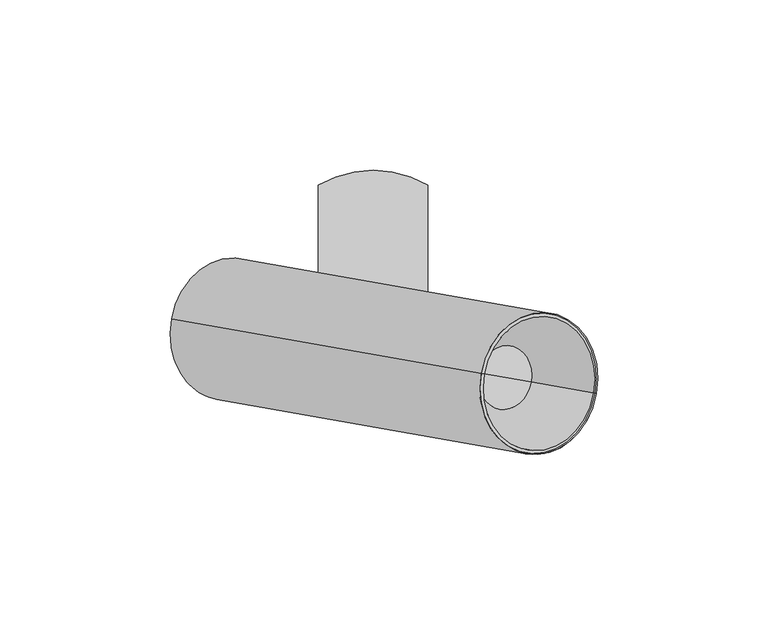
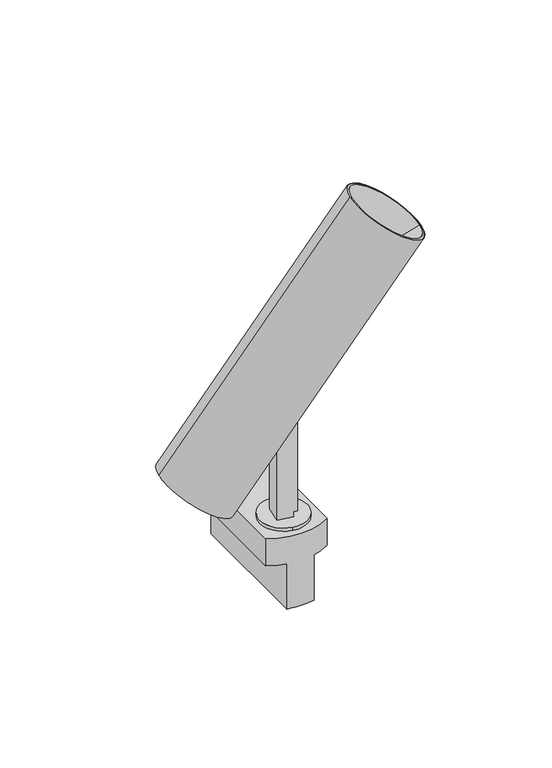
"""IFC4 building model written with IfcOpenShell, lengths in millimetres: light fixture geometry, PIPES T XS : 490lm 7,8W 930 38°."""

from ifc_helpers import new_model, si_unit, point, frame, frame_2d, origin, origin_2d, place, context, project, spatial, polyline, circle_curve, trimmed, segment, composite_curve, outline, extrude, source, transform, mapped, element, save
from ifc_brep_helpers import plane_surface, cylinder_surface, revolved_surface, advanced_brep


def light_fixture_79c06d4e(model_context):
    return source(origin(), model_context, "Body", "SolidModel", [
        extrude(outline(composite_curve([segment(polyline([(39.7303383, 0.0), (39.7303383, -8.0000001), (36.7303383, -8.0000001), (36.7303383, -10.0000001), (-21.31827, -10.0000001), (-21.31827, -2.0000001)]), True, "CONTINUOUS"), segment(trimmed(circle_curve(frame_2d((-15.691322, -2.0000001)), 5.626948), [point((-21.31827, -2.0000001))], [point((-15.691322, 3.626948))], False, "CARTESIAN"), True, "CONTINUOUS"), segment(polyline([(-15.691322, 3.626948), (-9.8735653, 3.626948)]), True, "CONTINUOUS"), segment(trimmed(circle_curve(frame_2d((-17.7182036, -2.2388679)), 9.7952104), [point((-9.8735653, 3.626948))], [point((-8.1822916, 0.0))], False, "CARTESIAN"), True, "CONTINUOUS"), segment(polyline([(-8.1822916, 0.0), (39.7303383, 0.0)]), True, "CONTINUOUS")], self_intersect=False)), frame((-5.7922797, -4.0557979, 56.5303383), z_axis=(0.1736481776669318, 0.9848077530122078, 0.0), x_axis=(0.0, 0.0, -1.0)), (0.0, 0.0, 1.0), 10.0),
        extrude(outline(composite_curve([segment(trimmed(circle_curve(origin_2d(), 12.5), [point((2.1706022, 12.3100969))], [point((-2.1706022, -12.3100969))], False, "CARTESIAN"), True, "CONTINUOUS"), segment(trimmed(circle_curve(origin_2d(), 12.5), [point((-2.1706022, -12.3100969))], [point((2.1706022, 12.3100969))], False, "CARTESIAN"), True, "CONTINUOUS")], self_intersect=False)), frame((0.0, 0.0, 15.0), z_axis=(0.0, 0.0, 1.0), x_axis=(1.0, 0.0, 0.0)), (0.0, 0.0, 1.0), 1.8),
        advanced_brep(
        [(-7.1153658, -15.2862846, -25.0), (-7.1153658, 53.3498174, -25.0), (7.1153658, 53.3498174, -25.0), (7.1153658, -15.2862846, -25.0), (-16.1153658, 49.7317664, 15.0), (-16.1153658, -11.6682336, 15.0), (16.1153658, -11.6682336, 15.0), (16.1153658, 49.7317664, 15.0), (-16.1153658, 49.7317664, 0.0), (-16.1153658, -11.6682336, 0.0), (-7.1153658, -15.2862846, 0.0), (7.1153658, -15.2862846, 0.0), (16.1153658, -11.6682336, 0.0), (16.1153658, 49.7317664, 0.0), (7.1153658, 53.3498174, 0.0), (-7.1153658, 53.3498174, 0.0)],
        [
            (0, 1),
            (1, 2, circle_curve(frame((0.0, 22.6472542, -25.0), z_axis=(0.0, 0.0, -1.0), x_axis=(1.0, 0.0, 0.0)), 31.5162786)),
            (2, 3),
            (3, 0, circle_curve(frame((0.0, 15.4162786, -25.0), z_axis=(0.0, 0.0, -1.0), x_axis=(1.0, 0.0, 0.0)), 31.5162786)),
            (4, 5),
            (5, 6, circle_curve(frame((0.0, 15.4162786, 15.0), z_axis=(0.0, 0.0, 1.0), x_axis=(1.0, 0.0, 0.0)), 31.5162786)),
            (6, 7),
            (7, 4, circle_curve(frame((0.0, 22.6472542, 15.0), z_axis=(0.0, 0.0, 1.0), x_axis=(1.0, 0.0, 0.0)), 31.5162786)),
            (4, 8),
            (8, 9),
            (9, 5),
            (9, 10, circle_curve(frame((0.0, 15.4162786, 0.0), z_axis=(0.0, 0.0, 1.0), x_axis=(1.0, 0.0, 0.0)), 31.5162786)),
            (10, 0),
            (3, 11),
            (11, 12, circle_curve(frame((0.0, 15.4162786, 0.0), z_axis=(0.0, 0.0, 1.0), x_axis=(1.0, 0.0, 0.0)), 31.5162786)),
            (12, 6),
            (12, 13),
            (13, 7),
            (13, 14, circle_curve(frame((0.0, 22.6472542, 0.0), z_axis=(0.0, 0.0, 1.0), x_axis=(1.0, 0.0, 0.0)), 31.5162786)),
            (14, 2),
            (1, 15),
            (15, 8, circle_curve(frame((0.0, 22.6472542, 0.0), z_axis=(0.0, 0.0, 1.0), x_axis=(1.0, 0.0, 0.0)), 31.5162786)),
            (15, 10),
            (11, 14),
        ],
        [
            plane_surface(frame((-16.1153658, -11.6883244, -25.0), z_axis=(0.0, 0.0, -1.0), x_axis=(0.0, 1.0, 0.0))),
            plane_surface(frame((-16.1153658, -11.6883244, 15.0), z_axis=(0.0, 0.0, 1.0), x_axis=(0.0, -1.0, 0.0))),
            plane_surface(frame((-16.1153658, 49.7317664, 15.0), z_axis=(-1.0, 0.0, 0.0), x_axis=(0.0, 0.0, -1.0))),
            cylinder_surface(frame((0.0, 15.4162786, -25.0), z_axis=(0.0, 0.0, 1.0), x_axis=(1.0, 0.0, 0.0)), 31.5162786),
            plane_surface(frame((16.1153658, -11.6682336, 15.0), z_axis=(1.0, 0.0, 0.0), x_axis=(0.0, 0.0, -1.0))),
            cylinder_surface(frame((0.0, 22.6472542, -25.0), z_axis=(0.0, 0.0, 1.0), x_axis=(1.0, 0.0, 0.0)), 31.5162786),
            plane_surface(frame((-7.1153658, 58.6979838, 0.0), z_axis=(0.0, 0.0, -1.0), x_axis=(-1.0, 0.0, 0.0))),
            plane_surface(frame((-7.1153658, -21.3020162, 0.0), z_axis=(-1.0, 0.0, 0.0), x_axis=(0.0, 0.0, -1.0))),
            plane_surface(frame((7.1153658, -11.6883244, 0.0), z_axis=(0.0, 0.0, -1.0), x_axis=(0.0, -1.0, 0.0))),
            plane_surface(frame((7.1153658, 58.6979838, 0.0), z_axis=(1.0, 0.0, 0.0), x_axis=(0.0, 0.0, -1.0))),
        ],
        [
            (0, [[1, 2, 3, 4]]),
            (1, [[5, 6, 7, 8]]),
            (2, [[-5, 9, 10, 11]]),
            (3, [[-6, -11, 12, 13, -4, 14, 15, 16]]),
            (4, [[-7, -16, 17, 18]]),
            (5, [[-8, -18, 19, 20, -2, 21, 22, -9]]),
            (6, [[23, -12, -10, -22]]),
            (7, [[-23, -21, -1, -13]]),
            (8, [[24, -19, -17, -15]]),
            (9, [[-24, -14, -3, -20]]),
        ],
    ),
        advanced_brep(
        [(-0.3409829, 5.1372575, 79.9636424), (-29.1489715, 10.2168832, 38.1868881), (-23.2355629, 9.1741897, 33.9823992), (-26.624738, 9.7717927, 29.0674869), (-24.958262, 9.477948, 27.8826069), (7.2389017, 3.8007194, 74.5742734), (-2.0774647, -4.71082, 79.9636424), (5.5024199, -6.0473581, 74.5742734), (-26.6947438, -0.3701295, 27.8826069), (-28.3612198, -0.0762848, 29.0674869), (-24.9720446, -0.6738878, 33.9823992), (-30.8854533, 0.3688057, 38.1868881), (-30.0172124, 5.2928444, 38.1868881), (6.857849, -1.2092238, 74.227878), (65.6035513, -11.5676761, 159.4196906), (31.7218453, -5.5934172, 183.509901), (-59.2210206, 10.4422638, 51.6264218), (-57.6076061, 10.1577752, 50.479269), (-54.2184309, 9.5601722, 55.3941812), (-38.8909925, 6.8575313, 44.4962289), (30.1456688, -5.3154948, 162.0462474), (46.2798145, -8.16038, 150.5747186), (38.2127416, -6.7379374, 156.310483)],
        [
            (0, 1),
            (1, 2),
            (2, 3),
            (3, 4),
            (4, 5),
            (5, 0),
            (6, 7),
            (7, 8),
            (8, 9),
            (9, 10),
            (10, 11),
            (11, 6),
            (0, 6),
            (11, 12),
            (12, 1),
            (5, 13, circle_curve(frame((-10.0830039, 1.7779056, 86.2729832), z_axis=(-0.5648625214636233, 0.09960050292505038, -0.8191520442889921), x_axis=(0.8067072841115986, -0.14224425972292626, -0.5735764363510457)), 21.0)),
            (13, 7, circle_curve(frame((-10.0830039, 1.7779056, 86.2729832), z_axis=(-0.5648625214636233, 0.09960050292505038, -0.8191520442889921), x_axis=(0.8067072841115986, -0.14224425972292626, -0.5735764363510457)), 21.0)),
            (14, 15, circle_curve(frame((48.6626983, -8.5805467, 171.4647958), z_axis=(-0.5648625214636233, 0.09960050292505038, -0.8191520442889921), x_axis=(0.8067072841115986, -0.14224425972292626, -0.5735764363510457)), 21.0)),
            (15, 16),
            (16, 8, circle_curve(frame((-42.2801677, 7.4551343, 39.5813167), z_axis=(0.5648625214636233, -0.09960050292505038, 0.8191520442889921), x_axis=(0.8067072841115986, -0.14224425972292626, -0.5735764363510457)), 21.0)),
            (13, 14),
            (15, 14, circle_curve(frame((48.6626983, -8.5805467, 171.4647958), z_axis=(-0.5648625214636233, 0.09960050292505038, -0.8191520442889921), x_axis=(0.8067072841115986, -0.14224425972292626, -0.5735764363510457)), 21.0)),
            (4, 16, circle_curve(frame((-42.2801677, 7.4551343, 39.5813167), z_axis=(0.5648625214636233, -0.09960050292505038, 0.8191520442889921), x_axis=(0.8067072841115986, -0.14224425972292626, -0.5735764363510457)), 21.0)),
            (16, 17),
            (17, 9, circle_curve(frame((-42.2801677, 7.4551343, 39.5813167), z_axis=(0.5648625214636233, -0.09960050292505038, 0.8191520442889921), x_axis=(0.8067072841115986, -0.14224425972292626, -0.5735764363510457)), 19.0)),
            (3, 17, circle_curve(frame((-42.2801677, 7.4551343, 39.5813167), z_axis=(0.5648625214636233, -0.09960050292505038, 0.8191520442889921), x_axis=(0.8067072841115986, -0.14224425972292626, -0.5735764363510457)), 19.0)),
            (17, 18),
            (18, 10, circle_curve(frame((-38.8909925, 6.8575313, 44.4962289), z_axis=(0.5648625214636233, -0.09960050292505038, 0.8191520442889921), x_axis=(0.8067072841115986, -0.14224425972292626, -0.5735764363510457)), 19.0)),
            (2, 18, circle_curve(frame((-38.8909925, 6.8575313, 44.4962289), z_axis=(0.5648625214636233, -0.09960050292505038, 0.8191520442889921), x_axis=(0.8067072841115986, -0.14224425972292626, -0.5735764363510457)), 19.0)),
            (18, 19),
            (19, 12),
            (20, 21, circle_curve(frame((38.2127416, -6.7379374, 156.310483), z_axis=(0.5648625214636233, -0.09960050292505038, 0.8191520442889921), x_axis=(0.8067072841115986, -0.14224425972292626, -0.5735764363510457)), 10.0)),
            (21, 22),
            (22, 20),
            (21, 20, circle_curve(frame((38.2127416, -6.7379374, 156.310483), z_axis=(0.5648625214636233, -0.09960050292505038, 0.8191520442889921), x_axis=(0.8067072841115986, -0.14224425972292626, -0.5735764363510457)), 10.0)),
            (14, 21),
            (20, 15),
        ],
        [
            plane_surface(frame((-0.3409829, 5.1372575, 79.9636424), z_axis=(-0.1736481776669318, -0.9848077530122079, 0.0), x_axis=(0.564862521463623, -0.09960050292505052, 0.8191520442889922))),
            plane_surface(frame((-2.0774647, -4.71082, 79.9636424), z_axis=(0.1736481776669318, 0.9848077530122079, 0.0), x_axis=(-0.564862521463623, 0.09960050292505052, -0.8191520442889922))),
            plane_surface(frame((-2.0774647, -4.71082, 79.9636424), z_axis=(0.806707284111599, -0.14224425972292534, -0.5735764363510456), x_axis=(0.17364817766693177, 0.9848077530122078, 0.0))),
            plane_surface(frame((14.056681, -7.5557052, 68.4921137), z_axis=(-0.5648625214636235, 0.09960050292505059, -0.8191520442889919), x_axis=(0.1736481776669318, 0.9848077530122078, 0.0))),
            cylinder_surface(frame((-47.0546009, 8.2969957, 32.6575315), z_axis=(-0.5648625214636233, 0.09960050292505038, -0.8191520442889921), x_axis=(0.8067072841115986, -0.14224425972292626, -0.5735764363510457)), 21.0),
            plane_surface(frame((-42.2801677, 7.4551343, 39.5813167), z_axis=(-0.5648625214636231, 0.09960050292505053, -0.819152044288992), x_axis=(0.8067072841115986, -0.14224425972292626, -0.5735764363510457))),
            revolved_surface(polyline([(-26.95272928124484, 4.752493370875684, 28.68336435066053), (-23.563554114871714, 4.154890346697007, 33.59827667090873)]), (-47.0546009, 8.2969957, 32.6575315), (-0.5648625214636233, 0.09960050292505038, -0.8191520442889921)),
            revolved_surface(polyline([(-26.95272927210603, 4.752493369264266, 28.68336436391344), (-23.56355413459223, 4.1548903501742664, 33.598276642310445)]), (-47.0546009, 8.2969957, 32.6575315), (-0.5648625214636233, 0.09960050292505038, -0.8191520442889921)),
            plane_surface(frame((-38.8909925, 6.8575313, 44.4962289), z_axis=(-0.5648625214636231, 0.09960050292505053, -0.819152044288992), x_axis=(0.8067072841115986, -0.14224425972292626, -0.5735764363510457))),
            plane_surface(frame((38.2127416, -6.7379374, 156.310483), z_axis=(0.5648625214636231, -0.09960050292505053, 0.819152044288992), x_axis=(0.8067072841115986, -0.14224425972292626, -0.5735764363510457))),
            revolved_surface(polyline([(46.2798145, -8.16038, 150.5747186), (65.6035513, -11.5676761, 159.4196906)]), (-47.0546009, 8.2969957, 32.6575315), (-0.5648625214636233, 0.09960050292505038, -0.8191520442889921)),
        ],
        [
            (0, [[1, 2, 3, 4, 5, 6]]),
            (1, [[7, 8, 9, 10, 11, 12]]),
            (2, [[13, -12, 14, 15, -1]]),
            (3, [[-13, -6, 16, 17, -7]]),
            (4, [[18, 19, 20, -8, -17, 21]]),
            (4, [[-19, 22, -21, -16, -5, 23]]),
            (5, [[24, 25, -9, -20]]),
            (5, [[-24, -23, -4, 26]]),
            (6, [[27, 28, -10, -25]]),
            (7, [[-27, -26, -3, 29]]),
            (8, [[30, 31, -14, -11, -28]]),
            (8, [[-30, -29, -2, -15, -31]]),
            (9, [[32, 33, 34]]),
            (9, [[-33, 35, -34]]),
            (10, [[-18, 36, -32, 37]]),
            (10, [[-22, -37, -35, -36]]),
        ],
    ),
        advanced_brep(
        [(-31.4084216, 10.6152852, 34.91028), (-32.5381466, 10.8144862, 33.2719759), (-28.3098502, 10.0689235, 30.2656175), (-27.1801251, 9.8697225, 31.9039216), (-34.2746284, 0.9664087, 33.2719759), (-33.1449034, 0.7672077, 34.91028), (-28.9166069, 0.0216449, 31.9039216), (-30.046332, 0.2208459, 30.2656175), (-32.2766625, 5.6912464, 34.91028), (-33.4063875, 5.8904475, 33.2719759), (-41.1504426, 7.2559333, 41.2196208), (-54.8593385, 9.6731815, 50.9667742), (-55.9890636, 9.8723825, 49.3284701), (-42.2801677, 7.4551343, 39.5813167)],
        [
            (0, 1),
            (1, 2),
            (2, 3),
            (3, 0),
            (4, 5),
            (5, 6),
            (6, 7),
            (7, 4),
            (0, 8),
            (8, 5),
            (4, 9),
            (9, 1),
            (10, 11),
            (11, 6, circle_curve(frame((-41.1504426, 7.2559333, 41.2196208), z_axis=(0.5648625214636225, -0.09960050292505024, 0.8191520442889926), x_axis=(0.8067072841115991, -0.14224425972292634, -0.5735764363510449)), 16.9936434)),
            (8, 10),
            (3, 11, circle_curve(frame((-41.1504426, 7.2559333, 41.2196208), z_axis=(0.5648625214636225, -0.09960050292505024, 0.8191520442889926), x_axis=(0.8067072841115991, -0.14224425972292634, -0.5735764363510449)), 16.9936434)),
            (11, 12),
            (12, 7, circle_curve(frame((-42.2801677, 7.4551343, 39.5813167), z_axis=(0.5648625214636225, -0.09960050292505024, 0.8191520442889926), x_axis=(0.8067072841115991, -0.14224425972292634, -0.5735764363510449)), 16.9936434)),
            (2, 12, circle_curve(frame((-42.2801677, 7.4551343, 39.5813167), z_axis=(0.5648625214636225, -0.09960050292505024, 0.8191520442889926), x_axis=(0.8067072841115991, -0.14224425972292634, -0.5735764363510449)), 16.9936434)),
            (12, 13),
            (13, 9),
        ],
        [
            plane_surface(frame((-0.3409829, 5.1372575, 79.9636424), z_axis=(-0.1736481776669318, -0.9848077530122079, 0.0), x_axis=(0.564862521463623, -0.09960050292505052, 0.8191520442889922))),
            plane_surface(frame((-2.0774647, -4.71082, 79.9636424), z_axis=(0.1736481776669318, 0.9848077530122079, 0.0), x_axis=(-0.564862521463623, 0.09960050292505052, -0.8191520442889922))),
            plane_surface(frame((-2.0774647, -4.71082, 79.9636424), z_axis=(0.806707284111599, -0.14224425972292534, -0.5735764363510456), x_axis=(0.17364817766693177, 0.9848077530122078, 0.0))),
            plane_surface(frame((-41.1504426, 7.2559333, 41.2196208), z_axis=(0.5648625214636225, -0.09960050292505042, 0.8191520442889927), x_axis=(0.8067072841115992, -0.14224425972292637, -0.573576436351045))),
            cylinder_surface(frame((32.3085834, -5.696875, 147.7483938), z_axis=(-0.5648625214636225, 0.09960050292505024, -0.8191520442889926), x_axis=(0.8067072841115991, -0.14224425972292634, -0.5735764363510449)), 16.9936434),
            plane_surface(frame((-42.2801677, 7.4551343, 39.5813167), z_axis=(-0.5648625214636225, 0.09960050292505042, -0.8191520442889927), x_axis=(0.8067072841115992, -0.14224425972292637, -0.573576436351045))),
        ],
        [
            (0, [[1, 2, 3, 4]]),
            (1, [[5, 6, 7, 8]]),
            (2, [[-1, 9, 10, -5, 11, 12]]),
            (3, [[13, 14, -6, -10, 15]]),
            (3, [[-13, -15, -9, -4, 16]]),
            (4, [[17, 18, -7, -14]]),
            (4, [[-17, -16, -3, 19]]),
            (5, [[20, 21, -11, -8, -18]]),
            (5, [[-20, -19, -2, -12, -21]]),
        ],
    ),
        advanced_brep(
        [(31.1694058, -5.4960072, 162.5391354), (46.3858026, -8.1790685, 151.7201347), (38.7776042, -6.8375379, 157.129635), (32.6603835, -5.7589068, 182.8425915), (64.665013, -11.4021865, 160.0870001), (31.7218453, -5.5934172, 183.509901), (65.6035513, -11.5676761, 159.4196906), (30.1456688, -5.3154948, 162.0462474), (46.2798145, -8.16038, 150.5747186), (38.2127416, -6.7379374, 156.310483)],
        [
            (0, 1, circle_curve(frame((38.7776042, -6.8375379, 157.129635), z_axis=(0.5648625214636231, -0.09960050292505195, 0.819152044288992), x_axis=(0.8067072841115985, -0.14224425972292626, -0.5735764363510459)), 9.431176)),
            (1, 2),
            (2, 0),
            (1, 0, circle_curve(frame((38.7776042, -6.8375379, 157.129635), z_axis=(0.5648625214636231, -0.09960050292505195, 0.819152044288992), x_axis=(0.8067072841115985, -0.14224425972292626, -0.5735764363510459)), 9.431176)),
            (3, 4, circle_curve(frame((48.6626983, -8.5805467, 171.4647958), z_axis=(0.5648625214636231, -0.09960050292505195, 0.819152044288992), x_axis=(0.8067072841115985, -0.14224425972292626, -0.5735764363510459)), 19.8365814)),
            (4, 1),
            (0, 3),
            (4, 3, circle_curve(frame((48.6626983, -8.5805467, 171.4647958), z_axis=(0.5648625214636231, -0.09960050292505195, 0.819152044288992), x_axis=(0.8067072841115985, -0.14224425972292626, -0.5735764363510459)), 19.8365814)),
            (5, 6, circle_curve(frame((48.6626983, -8.5805467, 171.4647958), z_axis=(0.5648625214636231, -0.09960050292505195, 0.819152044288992), x_axis=(0.8067072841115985, -0.14224425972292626, -0.5735764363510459)), 21.0)),
            (6, 4),
            (3, 5),
            (6, 5, circle_curve(frame((48.6626983, -8.5805467, 171.4647958), z_axis=(0.5648625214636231, -0.09960050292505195, 0.819152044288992), x_axis=(0.8067072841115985, -0.14224425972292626, -0.5735764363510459)), 21.0)),
            (7, 8, circle_curve(frame((38.2127416, -6.7379374, 156.310483), z_axis=(0.5648625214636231, -0.09960050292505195, 0.819152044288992), x_axis=(0.8067072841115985, -0.14224425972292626, -0.5735764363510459)), 10.0)),
            (8, 6),
            (5, 7),
            (8, 7, circle_curve(frame((38.2127416, -6.7379374, 156.310483), z_axis=(0.5648625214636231, -0.09960050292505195, 0.819152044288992), x_axis=(0.8067072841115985, -0.14224425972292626, -0.5735764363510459)), 10.0)),
            (9, 8),
            (7, 9),
        ],
        [
            plane_surface(frame((38.7776042, -6.8375379, 157.129635), z_axis=(0.5648625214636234, -0.09960050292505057, 0.8191520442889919), x_axis=(0.8067072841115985, -0.14224425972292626, -0.5735764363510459))),
            revolved_surface(polyline([(46.3858026, -8.1790685, 151.7201347), (64.665013, -11.4021865, 160.0870001)]), (-58.3518513, 10.2890058, 16.2744907), (-0.5648625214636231, 0.09960050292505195, -0.819152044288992)),
            plane_surface(frame((48.6626983, -8.5805467, 171.4647958), z_axis=(0.5648625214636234, -0.09960050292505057, 0.8191520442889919), x_axis=(0.8067072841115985, -0.14224425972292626, -0.5735764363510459))),
            revolved_surface(polyline([(65.6035513, -11.5676761, 159.4196906), (46.2798145, -8.16038, 150.5747186)]), (-58.3518513, 10.2890058, 16.2744907), (-0.5648625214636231, 0.09960050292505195, -0.819152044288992)),
            plane_surface(frame((38.2127416, -6.7379374, 156.310483), z_axis=(-0.5648625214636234, 0.09960050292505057, -0.8191520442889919), x_axis=(0.8067072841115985, -0.14224425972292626, -0.5735764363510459))),
        ],
        [
            (0, [[1, 2, 3]]),
            (0, [[4, -3, -2]]),
            (1, [[5, 6, -1, 7]]),
            (1, [[8, -7, -4, -6]]),
            (2, [[9, 10, -5, 11]]),
            (2, [[12, -11, -8, -10]]),
            (3, [[13, 14, -9, 15]]),
            (3, [[16, -15, -12, -14]]),
            (4, [[17, -13, 18]]),
            (4, [[-18, -16, -17]]),
        ],
    ),
    ])


if __name__ == "__main__":
    model = new_model("IFC4")
    model_context = context("Model", 3, world=origin())
    ifc_project = project(units=[si_unit("LENGTHUNIT", "METRE", prefix="MILLI")], contexts=[model_context])
    site = spatial("IfcSite", under=ifc_project)
    building = spatial("IfcBuilding", under=site)
    placement = place(None, origin())
    light_fixture_shape = light_fixture_79c06d4e(model_context)
    element("IfcLightFixture", 1, ObjectType="PIPES T XS : 490lm 7,8W 930 38°", at=placement, inside=building, context=model_context, shape_type="MappedRepresentation", body=[
        mapped(light_fixture_shape, transform((0.0, 0.0, 0.0), x_axis=(1.0, 0.0, 0.0), y_axis=(0.0, 1.0, 0.0), z_axis=(0.0, 0.0, 1.0))),
    ])
    save(model, "model.ifc")
